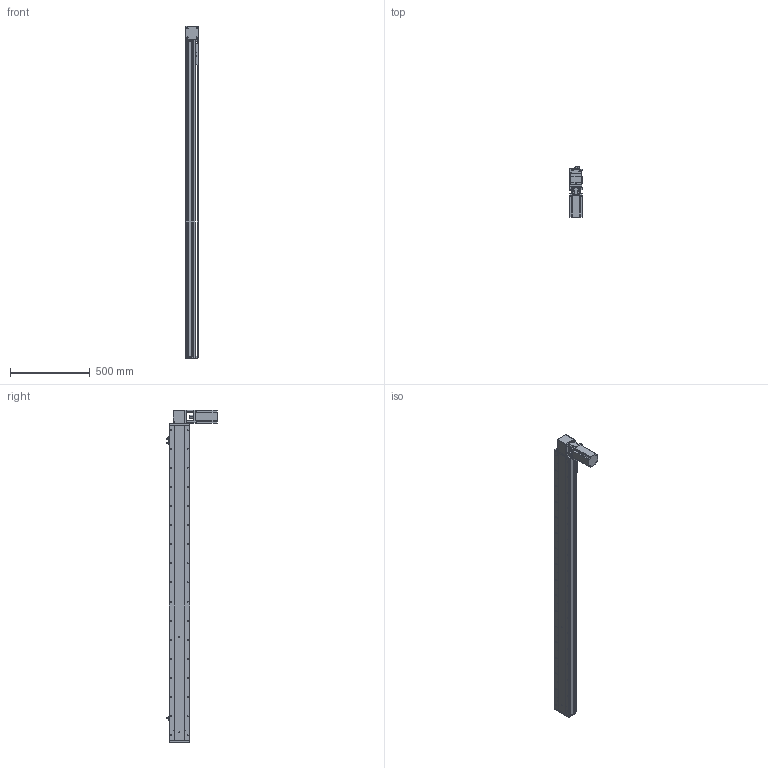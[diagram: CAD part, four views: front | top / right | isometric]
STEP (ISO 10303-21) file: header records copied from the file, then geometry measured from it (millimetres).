
FILE_DESCRIPTION (( 'STEP AP214' ), '1' );
FILE_NAME ('KSD130B-S1750-MRT-CM.STEP', '2019-11-16T05:17:03', ( '微软用户' ), ( '微软中国' ), 'SwSTEP 2.0', 'SolidWorks 2014', '' );
FILE_SCHEMA (( 'AUTOMOTIVE_DESIGN' ));
Length unit declared in the file: millimetre
Products named in the file (12): 台达ECMA－C20807AS伺服电机; 130宽马达安装板1-带电机座750W（1）; 覜茼え100遵圉猾敕; U倰嫖萇EEㄜSX672; 130宽安装板同步带带电机座750W; 130宽盖板半封闭同步带-1750行程; 130宽马达安装板同步带左-改; 130宽马达安装板同步带半封闭; 130宽同步带安装座半封闭; 130宽端盖同步带半封闭; 130宽底板半封闭同步带-1750行程; KSD130B-S1750-MRT-CM
Assembly tree (13 placements, depth 2):
  KSD130B-S1750-MRT-CM
    130宽底板半封闭同步带-1750行程
    130宽端盖同步带半封闭
    130宽同步带安装座半封闭
    130宽马达安装板同步带半封闭
    130宽马达安装板同步带左-改
    130宽盖板半封闭同步带-1750行程
    130宽安装板同步带带电机座750W
    U倰嫖萇EEㄜSX672  x3
    覜茼え100遵圉猾敕
    130宽马达安装板1-带电机座750W（1）
    台达ECMA－C20807AS伺服电机
Bounding box: 81 x 316 x 2083 mm (x, y, z)
Volume: 6986387.8 mm3; surface area: 1933890.8 mm2
Topology: 14 solids, 14 shells, 1717 faces, 4992 edges, 3161 vertices
Faces by surface type: cylinder 851, plane 633, cone 233
Entity records: 58507 total; most frequent: CARTESIAN_POINT 11323, DIRECTION 8814, ORIENTED_EDGE 8516, EDGE_CURVE 4258, AXIS2_PLACEMENT_3D 3264, VERTEX_POINT 2785, LINE 2286, VECTOR 2286
